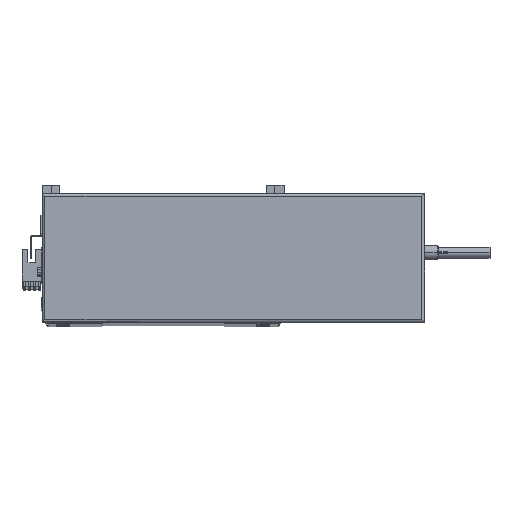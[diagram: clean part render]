
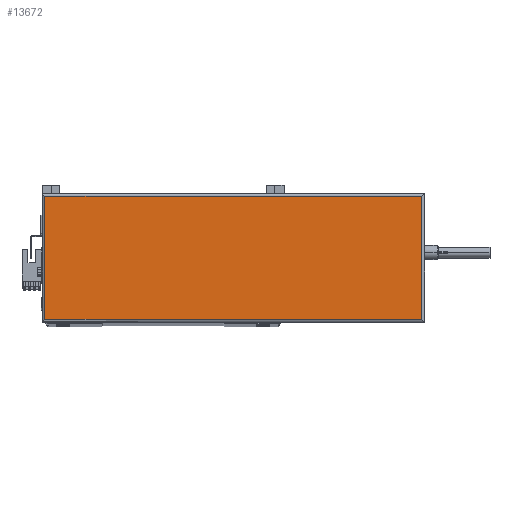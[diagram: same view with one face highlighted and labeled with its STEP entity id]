
A CAD part, top view. The second image highlights one B-rep face of the part: STEP entity #13672.
In plain terms, the highlighted planar face has unit normal (0, 0, 1).
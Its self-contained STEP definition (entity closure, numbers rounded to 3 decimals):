
#390 = EDGE_CURVE ( 'NONE', #9830, #6267, #37201, .T. ) ;
#3291 = CARTESIAN_POINT ( 'NONE',  ( 265., 2., 44.8 ) ) ;
#5698 = CARTESIAN_POINT ( 'NONE',  ( 0., 88., 44.8 ) ) ;
#6267 = VERTEX_POINT ( 'NONE', #52517 ) ;
#7066 = CARTESIAN_POINT ( 'NONE',  ( 265., 90., 44.8 ) ) ;
#9270 = ORIENTED_EDGE ( 'NONE', *, *, #34386, .T. ) ;
#9830 = VERTEX_POINT ( 'NONE', #44767 ) ;
#9916 = PLANE ( 'NONE',  #20658 ) ;
#10098 = ORIENTED_EDGE ( 'NONE', *, *, #35193, .T. ) ;
#11629 = CARTESIAN_POINT ( 'NONE',  ( 265., 88., 44.8 ) ) ;
#13553 = DIRECTION ( 'NONE',  ( -1., 0., 0. ) ) ;
#13672 = ADVANCED_FACE ( 'NONE', ( #44765 ), #9916, .T. ) ;
#13995 = DIRECTION ( 'NONE',  ( 1., 0., 0. ) ) ;
#16466 = EDGE_LOOP ( 'NONE', ( #10098, #9270, #20564, #39933 ) ) ;
#16651 = EDGE_CURVE ( 'NONE', #6267, #33025, #46512, .T. ) ;
#20564 = ORIENTED_EDGE ( 'NONE', *, *, #390, .T. ) ;
#20658 = AXIS2_PLACEMENT_3D ( 'NONE', #42454, #38207, #13995 ) ;
#24412 = CARTESIAN_POINT ( 'NONE',  ( 2., 0., 44.8 ) ) ;
#31732 = VERTEX_POINT ( 'NONE', #11629 ) ;
#33025 = VERTEX_POINT ( 'NONE', #3291 ) ;
#33364 = DIRECTION ( 'NONE',  ( 1., 0., 0. ) ) ;
#34386 = EDGE_CURVE ( 'NONE', #31732, #9830, #45849, .T. ) ;
#35193 = EDGE_CURVE ( 'NONE', #33025, #31732, #49552, .T. ) ;
#37201 = LINE ( 'NONE', #24412, #46024 ) ;
#38207 = DIRECTION ( 'NONE',  ( 0., 0., 1. ) ) ;
#39933 = ORIENTED_EDGE ( 'NONE', *, *, #16651, .T. ) ;
#39996 = DIRECTION ( 'NONE',  ( 0., -1., 0. ) ) ;
#42454 = CARTESIAN_POINT ( 'NONE',  ( 133.5, 45., 44.8 ) ) ;
#44765 = FACE_OUTER_BOUND ( 'NONE', #16466, .T. ) ;
#44767 = CARTESIAN_POINT ( 'NONE',  ( 2., 88., 44.8 ) ) ;
#45833 = VECTOR ( 'NONE', #33364, 1000. ) ;
#45849 = LINE ( 'NONE', #5698, #49680 ) ;
#46024 = VECTOR ( 'NONE', #39996, 1000. ) ;
#46512 = LINE ( 'NONE', #49820, #45833 ) ;
#47041 = VECTOR ( 'NONE', #51808, 1000. ) ;
#49552 = LINE ( 'NONE', #7066, #47041 ) ;
#49680 = VECTOR ( 'NONE', #13553, 1000. ) ;
#49820 = CARTESIAN_POINT ( 'NONE',  ( 267., 2., 44.8 ) ) ;
#51808 = DIRECTION ( 'NONE',  ( 0., 1., 0. ) ) ;
#52517 = CARTESIAN_POINT ( 'NONE',  ( 2., 2., 44.8 ) ) ;
